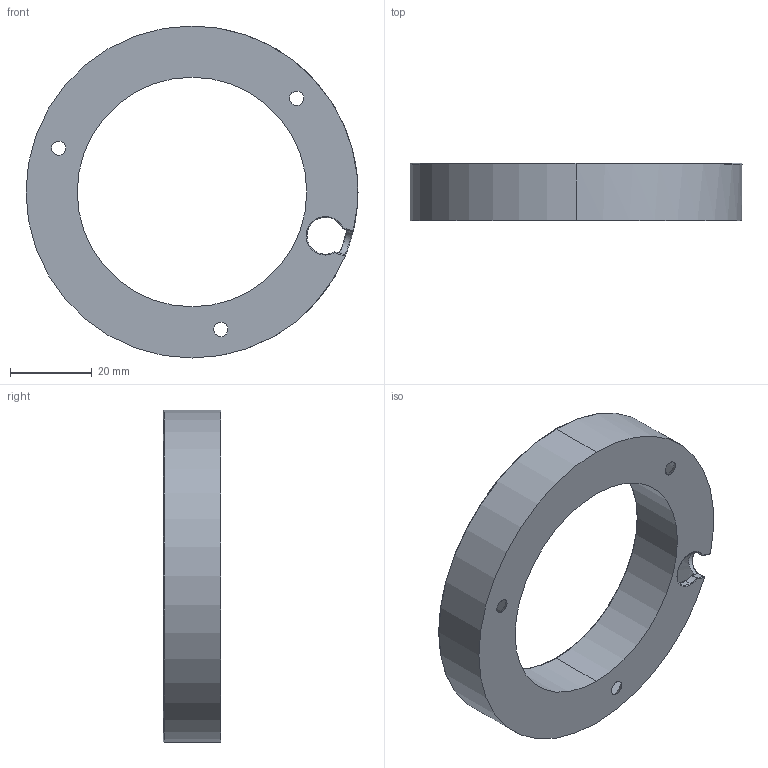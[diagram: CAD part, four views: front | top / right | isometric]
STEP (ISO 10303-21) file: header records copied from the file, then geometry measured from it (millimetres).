
FILE_DESCRIPTION (( 'STEP AP203' ), '1' );
FILE_NAME ('Gehaeuse_CircleLite_78_24.STEP', '2024-12-02T04:45:09', ( '' ), ( '' ), 'SwSTEP 2.0', 'SolidWorks 2023', '' );
FILE_SCHEMA (( 'CONFIG_CONTROL_DESIGN' ));
Length unit declared in the file: millimetre
Products named in the file (1): Gehaeuse_CircleLite_78_24
Bounding box: 81 x 14 x 81 mm (x, y, z)
Volume: 11699 mm3; surface area: 16346.9 mm2
Topology: 1 solids, 1 shells, 289 faces, 758 edges, 495 vertices
Faces by surface type: plane 139, bspline 104, cylinder 22, torus 14, cone 6, sphere 4
Entity records: 14682 total; most frequent: CARTESIAN_POINT 8146, ORIENTED_EDGE 1508, DIRECTION 993, EDGE_CURVE 754, VERTEX_POINT 494, LINE 459, VECTOR 459, EDGE_LOOP 326
